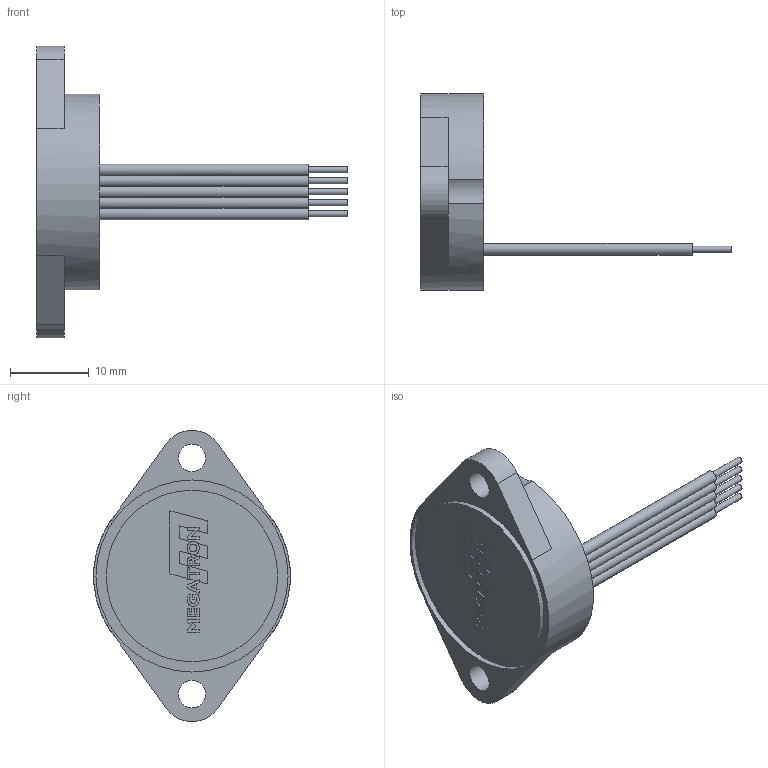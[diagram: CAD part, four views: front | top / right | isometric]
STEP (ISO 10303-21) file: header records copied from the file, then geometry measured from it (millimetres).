
FILE_DESCRIPTION (( 'STEP AP203' ), '1' );
FILE_NAME ('00.015.xx.MAZ.STEP', '2020-04-16T06:10:37', ( '' ), ( '' ), 'SwSTEP 2.0', 'SolidWorks 2019', '' );
FILE_SCHEMA (( 'CONFIG_CONTROL_DESIGN' ));
Length unit declared in the file: millimetre
Products named in the file (1): 00.015.xx.MAZ
Bounding box: 39.48 x 24.92 x 36.97 mm (x, y, z)
Surface area: 2968.2 mm2 (no closed solid volume)
Topology: 0 solids, 3 shells, 163 faces, 576 edges, 430 vertices
Faces by surface type: plane 118, cylinder 23, bspline 22
Full cylindrical faces by diameter (mm): 0.8 x5, 3.5 x2, 21.8 x1, 24.4 x1
Entity records: 8226 total; most frequent: CARTESIAN_POINT 3444, ORIENTED_EDGE 983, DIRECTION 812, EDGE_CURVE 566, VERTEX_POINT 429, VECTOR 406, LINE 406, EDGE_LOOP 204
